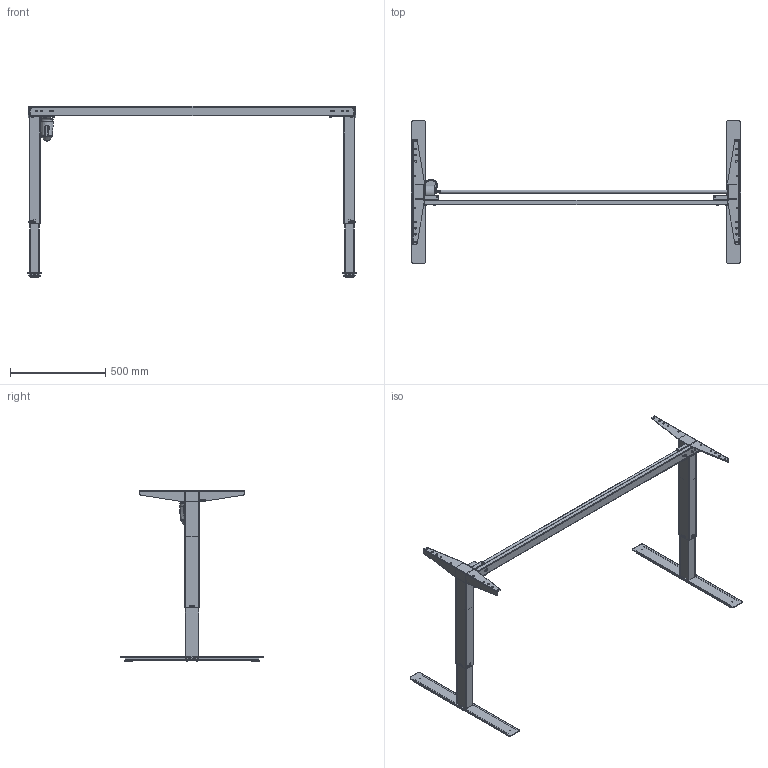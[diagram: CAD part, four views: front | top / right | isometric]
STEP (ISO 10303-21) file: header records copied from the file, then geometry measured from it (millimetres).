
FILE_DESCRIPTION (( 'STEP AP203' ), '1' );
FILE_NAME ('Tech-draw_501-47_XX172.STEP', '2020-12-21T07:36:24', ( '' ), ( '' ), 'SwSTEP 2.0', 'SolidWorks 2020', '' );
FILE_SCHEMA (( 'CONFIG_CONTROL_DESIGN' ));
Length unit declared in the file: millimetre
Products named in the file (35): 340560; 352350_silver; 150660_chrome; 348720_shell view; 150630_chrome; 324520_silver; 340760; 352160; Tech-draw_501-47_XX172; 340540_shell view; 151440_chrome; 341220; 347920_172; 352610; 352150; 345600; 140850_chrome1; 344430_silver; 352300_shell view; 344820_shell view; 150650_chrome; 341800; 352690; 345610_shell view; 352360_silver; 151650_501-47 XC172; 326900; 144260_172; 324520; 140860_chrome1; 332570; 304650; 347910_172
Assembly tree (60 placements, depth 5):
  Tech-draw_501-47_XX172
    151650_501-47 XC172
      347910_172
      144260_172
        347920_172
        340560
        341220
      150650_chrome
        140860_chrome1
          345610_shell view
          344820_shell view
          348720_shell view
        150630_chrome
          352300_shell view
          352690
        324520_silver  x2
        341800  x2
        326900  x2
        344430_silver
        352360_silver
        352350_silver
        151440_chrome
          352160
          352150
        304650  x4
        352610
      150660_chrome
        140850_chrome1
          345600
          344820_shell view
          340540_shell view
        150630_chrome
          352300_shell view
          352690
        324520  x2
        341800  x2
        352350_silver
        352360_silver
        151440_chrome
          352160
          352150
        304650  x4
      340760  x4
      332570  x4
Bounding box: 1729 x 750 x 901.26 mm (x, y, z)
Volume: 2955924.9 mm3; surface area: 2686443.8 mm2
Topology: 50 solids, 50 shells, 4438 faces, 11338 edges, 7135 vertices
Faces by surface type: plane 2313, cylinder 1208, bspline 636, cone 133, torus 116, sphere 32
Full cylindrical faces by diameter (mm): 2.8 x4, 3 x2, 4.6 x4, 5 x32, 6 x18, 6.7 x8, 7 x8, 7.6 x4, 8 x12, 8.5 x2, 10 x8, 11.9 x2, 12 x1, 13 x2, 15 x4, 16 x2, 18 x1, 20 x1, 24 x1, 37.6 x8, 60 x1
Entity records: 119222 total; most frequent: CARTESIAN_POINT 52383, ORIENTED_EDGE 13418, DIRECTION 12180, EDGE_CURVE 6709, VERTEX_POINT 4311, AXIS2_PLACEMENT_3D 4237, VECTOR 3706, LINE 3706
